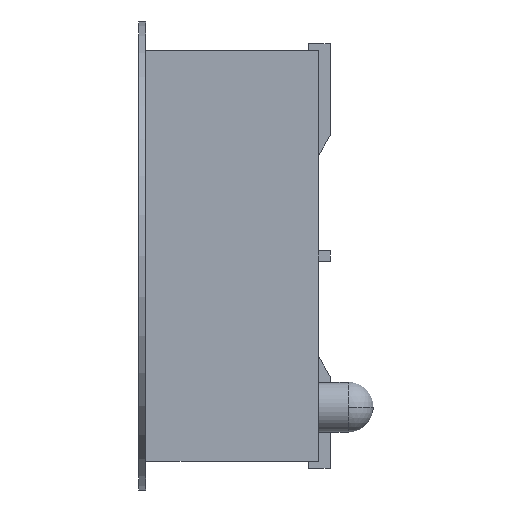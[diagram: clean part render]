
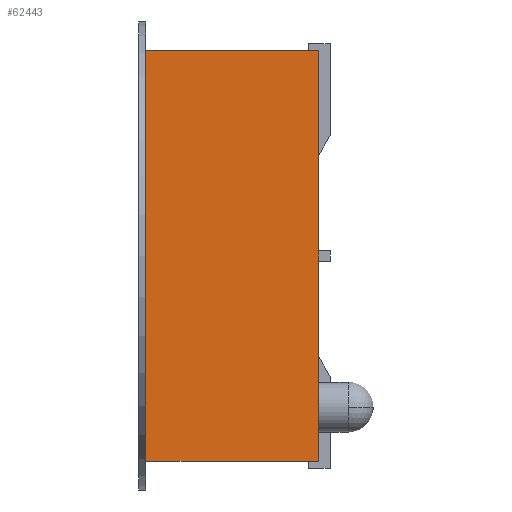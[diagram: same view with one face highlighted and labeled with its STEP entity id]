
A CAD part, left-side view. The second image highlights one B-rep face of the part: STEP entity #62443.
In plain terms, the highlighted planar face has unit normal (-1, 0, 0).
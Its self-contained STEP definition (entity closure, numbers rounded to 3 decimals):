
#1724 = DIRECTION ( 'NONE',  ( 0., 1., 0. ) ) ;
#3117 = ORIENTED_EDGE ( 'NONE', *, *, #22405, .T. ) ;
#6333 = CARTESIAN_POINT ( 'NONE',  ( -30.645, 3.048, 3.619 ) ) ;
#9086 = DIRECTION ( 'NONE',  ( 0., 0., -1. ) ) ;
#11589 = DIRECTION ( 'NONE',  ( 1., 0., 0. ) ) ;
#12947 = LINE ( 'NONE', #63557, #69227 ) ;
#12996 = ORIENTED_EDGE ( 'NONE', *, *, #14276, .F. ) ;
#14276 = EDGE_CURVE ( 'NONE', #31815, #15607, #74165, .T. ) ;
#15607 = VERTEX_POINT ( 'NONE', #82765 ) ;
#22405 = EDGE_CURVE ( 'NONE', #32125, #38717, #12947, .T. ) ;
#23486 = VECTOR ( 'NONE', #9086, 1000. ) ;
#24544 = CARTESIAN_POINT ( 'NONE',  ( -30.645, 3.048, -3.619 ) ) ;
#24956 = PLANE ( 'NONE',  #47333 ) ;
#25596 = VECTOR ( 'NONE', #1724, 1000. ) ;
#25863 = CARTESIAN_POINT ( 'NONE',  ( -30.645, 3.048, 3.619 ) ) ;
#27201 = CARTESIAN_POINT ( 'NONE',  ( -30.645, 0., -3.619 ) ) ;
#31496 = ORIENTED_EDGE ( 'NONE', *, *, #33024, .F. ) ;
#31815 = VERTEX_POINT ( 'NONE', #81401 ) ;
#32125 = VERTEX_POINT ( 'NONE', #53322 ) ;
#32645 = DIRECTION ( 'NONE',  ( 0., 0., -1. ) ) ;
#33024 = EDGE_CURVE ( 'NONE', #32125, #31815, #34963, .T. ) ;
#34963 = LINE ( 'NONE', #62124, #23486 ) ;
#37057 = DIRECTION ( 'NONE',  ( 0., 1., 0. ) ) ;
#38329 = FACE_OUTER_BOUND ( 'NONE', #39646, .T. ) ;
#38717 = VERTEX_POINT ( 'NONE', #25863 ) ;
#39646 = EDGE_LOOP ( 'NONE', ( #3117, #57910, #12996, #31496 ) ) ;
#45380 = EDGE_CURVE ( 'NONE', #38717, #15607, #65418, .T. ) ;
#47333 = AXIS2_PLACEMENT_3D ( 'NONE', #24544, #11589, #37057 ) ;
#53322 = CARTESIAN_POINT ( 'NONE',  ( -30.645, 0., 3.619 ) ) ;
#57910 = ORIENTED_EDGE ( 'NONE', *, *, #45380, .T. ) ;
#62124 = CARTESIAN_POINT ( 'NONE',  ( -30.645, 0., 3.619 ) ) ;
#62443 = ADVANCED_FACE ( 'NONE', ( #38329 ), #24956, .F. ) ;
#63557 = CARTESIAN_POINT ( 'NONE',  ( -30.645, 0., 3.619 ) ) ;
#65418 = LINE ( 'NONE', #6333, #81862 ) ;
#69227 = VECTOR ( 'NONE', #76482, 1000. ) ;
#74165 = LINE ( 'NONE', #27201, #25596 ) ;
#76482 = DIRECTION ( 'NONE',  ( 0., 1., 0. ) ) ;
#81401 = CARTESIAN_POINT ( 'NONE',  ( -30.645, 0., -3.619 ) ) ;
#81862 = VECTOR ( 'NONE', #32645, 1000. ) ;
#82765 = CARTESIAN_POINT ( 'NONE',  ( -30.645, 3.048, -3.619 ) ) ;
